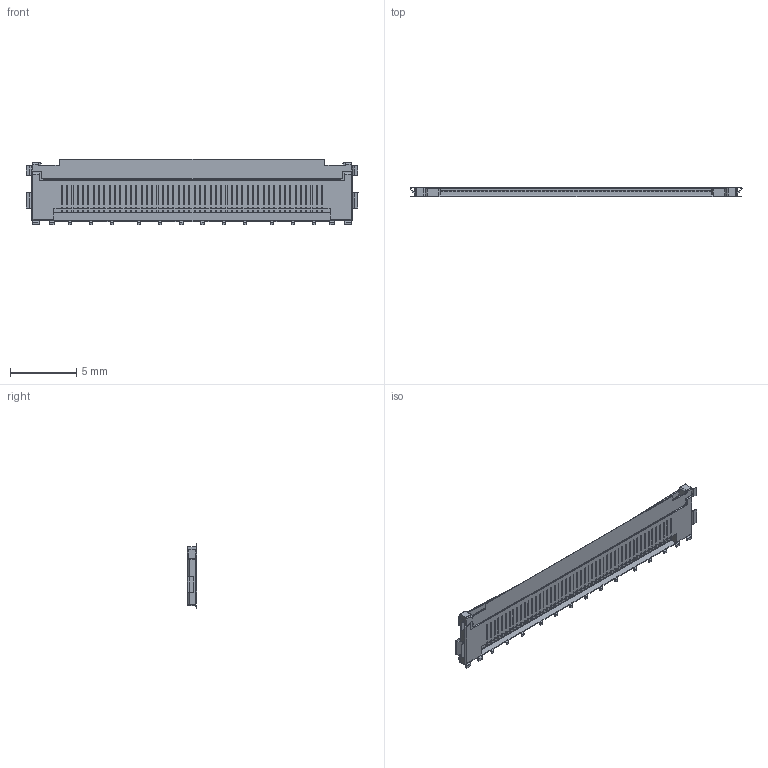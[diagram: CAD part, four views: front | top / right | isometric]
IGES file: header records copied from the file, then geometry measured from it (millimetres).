
Start section: SolidWorks IGES file using analytic representation for surfaces
Global section: file name: C:\3dwork\watanabe\20250902_CABLINE-CAL_IIF Web3D\21089-050E-01C  RECEPTACLE ASSEMBLY IGES R1 ALL.IGS; native system: SolidWorks 2023; preprocessor: SolidWorks 2023; author: 83197; date: 250909.175919; units: millimetre
Bounding box: 25 x 0.74 x 4.91 mm (x, y, z)
Surface area: 360.2 mm2 (no closed solid volume)
Topology: 0 solids, 0 shells, 1194 faces, 7166 edges, 7166 vertices
Faces by surface type: bspline 866, revolution 328
